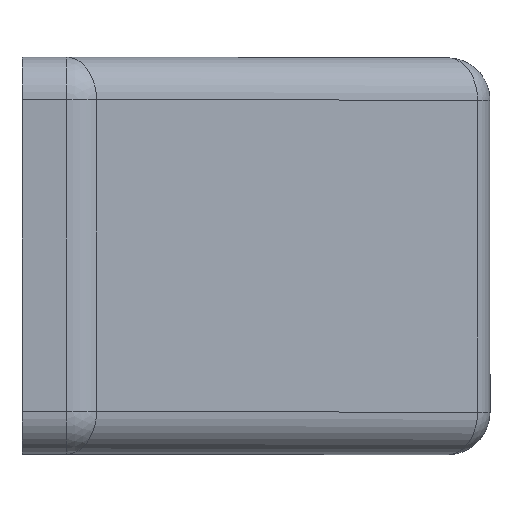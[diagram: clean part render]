
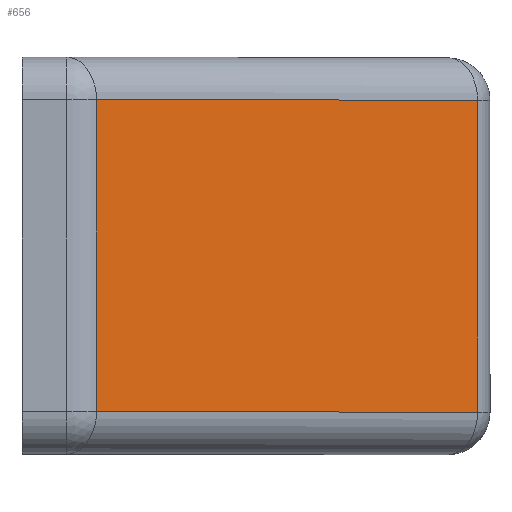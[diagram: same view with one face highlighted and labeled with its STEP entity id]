
A CAD part, top view. The second image highlights one B-rep face of the part: STEP entity #656.
In plain terms, the highlighted planar face has unit normal (0.707, 0, 0.707).
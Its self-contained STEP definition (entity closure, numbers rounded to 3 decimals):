
#450=CARTESIAN_POINT('',(4.121,25.,5.253));
#451=VERTEX_POINT('',#450);
#519=CARTESIAN_POINT('',(-22.747,25.,32.121));
#520=VERTEX_POINT('',#519);
#559=CARTESIAN_POINT('',(-22.747,25.,32.121));
#560=DIRECTION('',(0.707,0.,-0.707));
#561=VECTOR('',#560,37.998);
#562=LINE('',#559,#561);
#563=EDGE_CURVE('',#520,#451,#562,.T.);
#607=CARTESIAN_POINT('',(4.121,3.,5.253));
#608=VERTEX_POINT('',#607);
#609=CARTESIAN_POINT('',(4.121,25.,5.253));
#610=DIRECTION('',(0.0,-1.0,0.0));
#611=VECTOR('',#610,22.0);
#612=LINE('',#609,#611);
#613=EDGE_CURVE('',#451,#608,#612,.T.);
#633=CARTESIAN_POINT('',(-27.598,0.,36.972));
#634=DIRECTION('',(-0.707,0.,-0.707));
#635=DIRECTION('',(-0.707,0.0,0.707));
#636=AXIS2_PLACEMENT_3D('',#633,#634,#635);
#637=PLANE('',#636);
#638=ORIENTED_EDGE('',*,*,#563,.F.);
#639=CARTESIAN_POINT('',(-22.747,3.,32.121));
#640=VERTEX_POINT('',#639);
#641=CARTESIAN_POINT('',(-22.747,3.,32.121));
#642=DIRECTION('',(0.0,1.0,0.0));
#643=VECTOR('',#642,22.0);
#644=LINE('',#641,#643);
#645=EDGE_CURVE('',#640,#520,#644,.T.);
#646=ORIENTED_EDGE('',*,*,#645,.F.);
#647=CARTESIAN_POINT('',(4.121,3.,5.253));
#648=DIRECTION('',(-0.707,0.,0.707));
#649=VECTOR('',#648,37.998);
#650=LINE('',#647,#649);
#651=EDGE_CURVE('',#608,#640,#650,.T.);
#652=ORIENTED_EDGE('',*,*,#651,.F.);
#653=ORIENTED_EDGE('',*,*,#613,.F.);
#654=EDGE_LOOP('',(#638,#646,#652,#653));
#655=FACE_OUTER_BOUND('',#654,.T.);
#656=ADVANCED_FACE('',(#655),#637,.F.);
